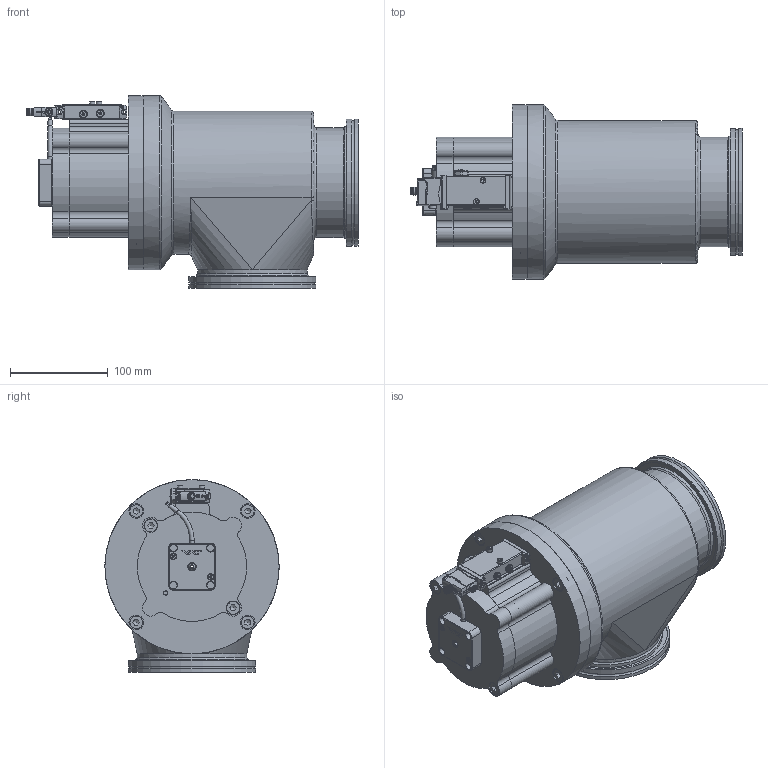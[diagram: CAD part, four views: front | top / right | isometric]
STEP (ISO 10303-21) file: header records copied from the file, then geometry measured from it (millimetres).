
FILE_DESCRIPTION(/* description */ (''),/* implementation_level */ '2;1');
FILE_NAME(/* name */ '1412701291_203.stp',/* time_stamp */ '2014-04-15T09:59:56+02:00',/* author */ (''),/* organization */ (''),/* preprocessor_version */ 'ST-DEVELOPER v11',/* originating_system */ 'SIEMENS PLM Software NX 7.5',/* authorisation */ '');
FILE_SCHEMA (('AP203_CONFIGURATION_CONTROLLED_3D_DESIGN_OF_MECHANICAL_PARTS_AND_ASSEMBLIES_MIM_LF'));
Length unit declared in the file: millimetre
Products named in the file (21): 366217; 568561; 571495; n-6134-404.1; n-6005-429.1; 518957_18212ID; n-6121-026.2; 517625_18218ID; 421306; 233359; 236204_1.1; 224847.1; 543750; 542372; 228777; 476060; 573596_MODEL; 518946_MODEL; 542323_MODEL; 421285; 577200
Assembly tree (27 placements, depth 3):
  577200
    476060
    228777  x4
    542372
    421285
      236204_1.1  x2
      233359
      421306
    542323_MODEL
      517625_18218ID
      n-6121-026.2
    518946_MODEL
      518957_18212ID
    543750
    573596_MODEL
      n-6005-429.1  x2
      n-6134-404.1  x2
      571495
      568561
      366217
    224847.1  x2
Bounding box: 339.25 x 178 x 197 mm (x, y, z)
Volume: 1868167.6 mm3; surface area: 467931.8 mm2
Topology: 39 solids, 46 shells, 1495 faces, 3684 edges, 2364 vertices
Faces by surface type: plane 794, cylinder 442, cone 151, torus 59, bspline 35, extrusion 8, sphere 6
Full cylindrical faces by diameter (mm): 1 x2, 1.4 x4, 2.46 x2, 2.5 x7, 2.6 x2, 3 x10, 3.2 x4, 3.8 x1, 3.85 x1, 4 x1, 4.2 x2, 4.5 x3, 5.5 x2, 5.6 x2, 5.8 x1, 6 x3, 6.2 x2, 6.5 x2, 6.66 x6, 6.7 x6, 6.8 x8, 6.9 x1, 7.2 x1, 7.4 x3, 8 x16, 8.1 x1, 8.15 x2, 8.3 x6, 8.4 x1, 8.566 x1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
Entity records: 50136 total; most frequent: CARTESIAN_POINT 10947, DIRECTION 6733, ORIENTED_EDGE 6230, EDGE_CURVE 3115, AXIS2_PLACEMENT_3D 2541, VERTEX_POINT 2136, EDGE_LOOP 1797, VECTOR 1651
